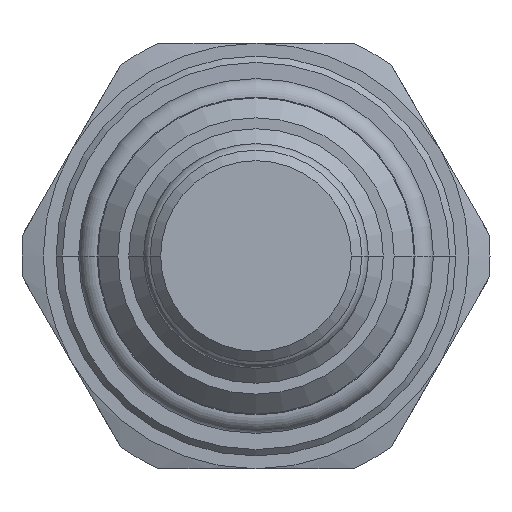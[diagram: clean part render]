
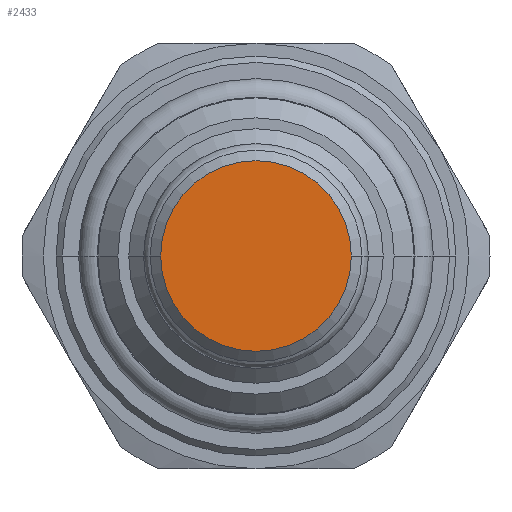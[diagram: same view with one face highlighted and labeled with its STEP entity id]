
A CAD part, front view. The second image highlights one B-rep face of the part: STEP entity #2433.
In plain terms, the highlighted planar face has unit normal (0, -1, 0).
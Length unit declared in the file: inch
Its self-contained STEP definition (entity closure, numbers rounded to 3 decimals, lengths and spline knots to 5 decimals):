
#1095=CARTESIAN_POINT('',(0.,-1.091,0.));
#1096=DIRECTION('',(0.,-1.,0.));
#1097=DIRECTION('',(1.,0.,0.));
#1098=AXIS2_PLACEMENT_3D('',#1095,#1096,#1097);
#1109=CARTESIAN_POINT('',(0.,-1.091,0.));
#1110=DIRECTION('',(0.,-1.,0.));
#1111=DIRECTION('',(-1.,0.,0.));
#1112=AXIS2_PLACEMENT_3D('',#1109,#1110,#1111);
#1293=CARTESIAN_POINT('',(-0.224,-1.091,0.));
#1294=CARTESIAN_POINT('',(0.224,-1.091,0.));
#1295=VERTEX_POINT('',#1293);
#1296=VERTEX_POINT('',#1294);
#2424=CARTESIAN_POINT('',(0.,-1.091,0.));
#2425=DIRECTION('',(0.,-1.,0.));
#2426=DIRECTION('',(-1.,0.,0.));
#2427=AXIS2_PLACEMENT_3D('',#2424,#2425,#2426);
#2428=PLANE('',#2427);
#2429=ORIENTED_EDGE('',*,*,#2418,.F.);
#2430=ORIENTED_EDGE('',*,*,#2404,.F.);
#2431=EDGE_LOOP('',(#2429,#2430));
#2432=FACE_OUTER_BOUND('',#2431,.F.);
#2433=ADVANCED_FACE('',(#2432),#2428,.T.);
#1099=CIRCLE('',#1098,0.224);
#1113=CIRCLE('',#1112,0.224);
#2404=EDGE_CURVE('',#1296,#1295,#1099,.T.);
#2418=EDGE_CURVE('',#1295,#1296,#1113,.T.);
